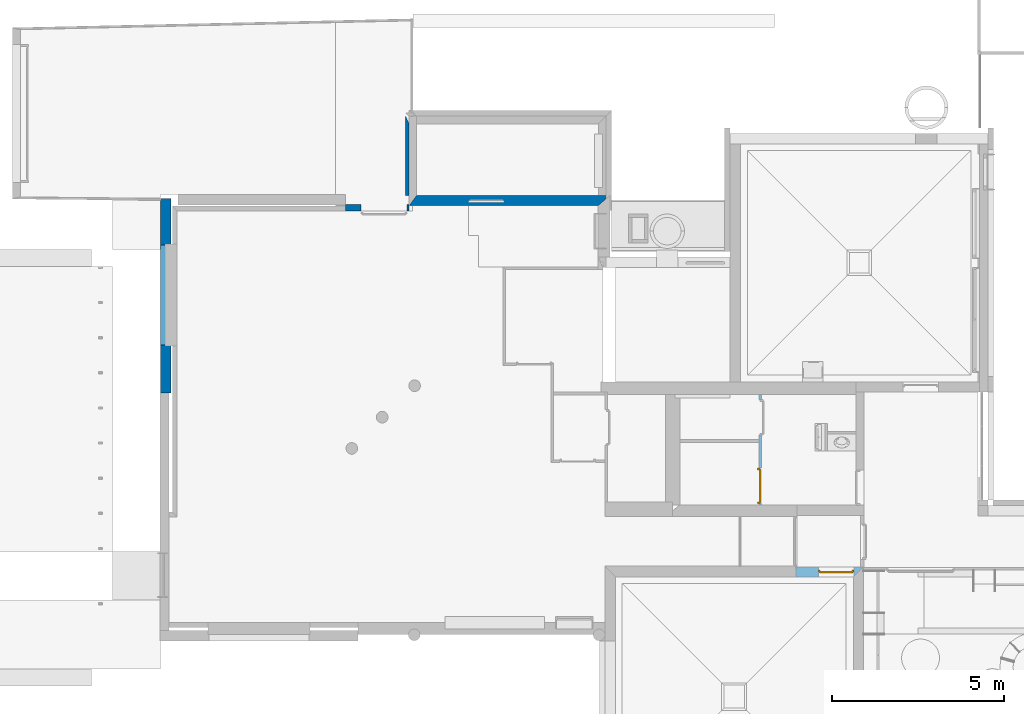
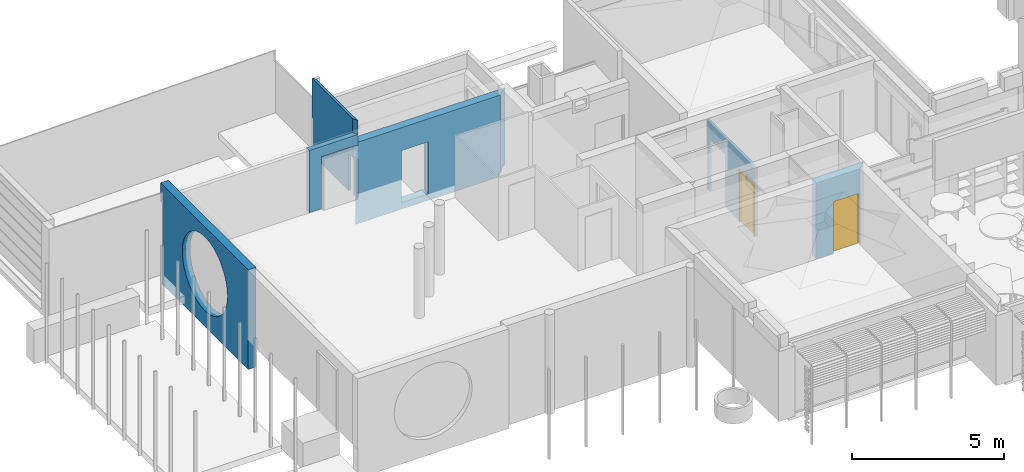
# One storey, part 38 of 64: 4 walls, 2 doors, 3 openings, plus 2 elements that do not belong to this part.
"""IFC2X3 building model written with IfcOpenShell, lengths in metres."""

import ifcopenshell
import ifcopenshell.guid

model = None  # the IFC model being written
_history = None  # IfcOwnerHistory: only IFC2X3 demands one
_inside = {}  # id of a spatial element -> (the spatial element, [elements in it])
_under = {}  # id of a project, library or spatial element -> (it, [spatial elements below it])
_declared = {}  # id of a project -> (the project, [libraries it declares])
_typed = {}  # id of a type object -> (the type object, [elements of that type])
_made_of = {}  # id of a material, layer set ... -> (it, [elements and type objects made of it])


def new_model(schema):
    """Start an empty IFC model of exactly this schema.

    Asked for "IFC4X3", IfcOpenShell would pick the latest addendum, in which some entities
    have other attributes; the version numbers below select the first issue.
    IFC2X3 requires an IfcOwnerHistory on every rooted entity: one is made here for all.
    """
    global model, _history
    if schema == "IFC4X3":
        model = ifcopenshell.file(schema_version=(4, 3, 0, 0))
    else:
        model = ifcopenshell.file(schema=schema)
    _inside.clear()
    _under.clear()
    _declared.clear()
    _typed.clear()
    _made_of.clear()
    _history = None
    if model.schema == "IFC2X3":
        org = make("IfcOrganization", Name="unknown")
        user = make(
            "IfcPersonAndOrganization",
            ThePerson=make("IfcPerson", FamilyName="unknown"),
            TheOrganization=org,
        )
        app = make(
            "IfcApplication",
            ApplicationDeveloper=org,
            Version="unknown",
            ApplicationFullName="unknown",
            ApplicationIdentifier="unknown",
        )
        _history = make(
            "IfcOwnerHistory",
            OwningUser=user,
            OwningApplication=app,
            ChangeAction="ADDED",
            CreationDate=0,
        )
    return model


def make(cls, **values):
    """One entity of the class cls with the attributes given. An attribute that is None is left unset."""
    return model.create_entity(
        cls, **{name: value for name, value in values.items() if value is not None}
    )


def entity(cls, *values):
    """Any entity or typed value of the class cls, its attributes in the order of the schema. None: left unset."""
    e = model.create_entity(cls)
    for i, value in enumerate(values):
        if value is not None:
            e[i] = value
    return e


def rooted(cls, **values):
    """An entity with a GlobalId (a new one), such as an element, a storey or a relation."""
    return make(cls, GlobalId=ifcopenshell.guid.new(), OwnerHistory=_history, **values)


def si_unit(unit_type, name, prefix=None):
    """IfcSIUnit, for example si_unit("LENGTHUNIT", "METRE", prefix="MILLI")."""
    return make("IfcSIUnit", UnitType=unit_type, Prefix=prefix, Name=name)


def converted_unit(unit_type, name, factor, base, dimensions=None, offset=None):
    """IfcConversionBasedUnit, such as the inch: factor (a typed value) times the base unit."""
    return make(
        "IfcConversionBasedUnit"
        if offset is None
        else "IfcConversionBasedUnitWithOffset",
        ConversionOffset=offset,
        Dimensions=None
        if dimensions is None
        else entity("IfcDimensionalExponents", *dimensions),
        UnitType=unit_type,
        Name=name,
        ConversionFactor=make(
            "IfcMeasureWithUnit", ValueComponent=factor, UnitComponent=base
        ),
    )


def derived_unit(unit_type, elements):
    """IfcDerivedUnit: a product of units, each with its exponent."""
    return make(
        "IfcDerivedUnit",
        Elements=[
            make("IfcDerivedUnitElement", Unit=unit, Exponent=power)
            for unit, power in elements
        ],
        UnitType=unit_type,
    )


def assignment(units):
    """IfcUnitAssignment: the units of a project."""
    return None if units is None else make("IfcUnitAssignment", Units=units)


def point(xyz):
    """IfcCartesianPoint."""
    return None if xyz is None else make("IfcCartesianPoint", Coordinates=xyz)


def direction(xyz):
    """IfcDirection."""
    return None if xyz is None else make("IfcDirection", DirectionRatios=xyz)


def frame(location, z_axis=None, x_axis=None):
    """IfcAxis2Placement3D, a coordinate frame: its origin and axes. An axis left out is left unset."""
    return make(
        "IfcAxis2Placement3D",
        Location=point(location),
        Axis=direction(z_axis),
        RefDirection=direction(x_axis),
    )


def frame_2d(location, x_axis=None):
    """IfcAxis2Placement2D, a coordinate frame in the plane: its origin and x axis."""
    return make(
        "IfcAxis2Placement2D", Location=point(location), RefDirection=direction(x_axis)
    )


def origin():
    """The frame at (0, 0, 0) with its axes left unset."""
    return frame((0.0, 0.0, 0.0))


def origin_2d_with_axis():
    """The frame at (0, 0) in the plane with the x axis (1, 0) written out."""
    return frame_2d((0.0, 0.0), x_axis=(1.0, 0.0))


def place(relative_to, where):
    """IfcLocalPlacement: puts the frame where relative to a parent placement (None: the world)."""
    return make(
        "IfcLocalPlacement", PlacementRelTo=relative_to, RelativePlacement=where
    )


def context(
    kind, dimensions, precision=None, world=None, true_north=None, identifier=None
):
    """IfcGeometricRepresentationContext, for example the 3D "Model" context."""
    return make(
        "IfcGeometricRepresentationContext",
        ContextIdentifier=identifier,
        ContextType=kind,
        CoordinateSpaceDimension=dimensions,
        Precision=precision,
        WorldCoordinateSystem=world,
        TrueNorth=true_north,
    )


def subcontext(parent, identifier, kind, view, scale=None):
    """IfcGeometricRepresentationSubContext, for example "Body" below "Model"."""
    return make(
        "IfcGeometricRepresentationSubContext",
        ContextIdentifier=identifier,
        ContextType=kind,
        ParentContext=parent,
        TargetScale=scale,
        TargetView=view,
    )


def project(units=None, contexts=None):
    """IfcProject with its units and contexts."""
    return rooted(
        "IfcProject",
        Name="project",
        RepresentationContexts=contexts,
        UnitsInContext=assignment(units),
    )


def spatial(cls, under=None, at=None, **own):
    """A site, building, storey or space (cls), placed at a placement, below another one or the project."""
    s = rooted(cls, ObjectPlacement=at, **own)
    if under is not None:
        _under.setdefault(under.id(), (under, []))[1].append(s)
    return s


def polyline(points):
    """IfcPolyline through the points."""
    return make("IfcPolyline", Points=[point(p) for p in points])


def profile(cls, at=None, kind="AREA", **sizes):
    """A parametric profile (cls). Its sizes go by their IFC names, for example OverallWidth=200.0."""
    return make(cls, ProfileType=kind, Position=at, **sizes)


def rectangle(**sizes):
    """IfcRectangleProfileDef."""
    return profile("IfcRectangleProfileDef", **sizes)


def outline(outer, holes=None, kind="AREA"):
    """IfcArbitraryClosedProfileDef: a profile drawn as a closed curve; with holes, ...WithVoids."""
    if holes is None:
        return make("IfcArbitraryClosedProfileDef", ProfileType=kind, OuterCurve=outer)
    return make(
        "IfcArbitraryProfileDefWithVoids",
        ProfileType=kind,
        OuterCurve=outer,
        InnerCurves=holes,
    )


def extrude(swept, where, along, depth):
    """IfcExtrudedAreaSolid: the profile swept, set in the frame where, extruded along a direction by depth."""
    return make(
        "IfcExtrudedAreaSolid",
        SweptArea=swept,
        Position=where,
        ExtrudedDirection=direction(along),
        Depth=depth,
    )


def faces_of(points, faces, orient=None, outer=None):
    """IfcFace entities. A face is a list of loops; a loop is a list of indices into points, from 0.

    orient and outer hold one flag for each loop. By default every Orientation is true, the
    first loop of a face is its IfcFaceOuterBound and the others are IfcFaceBound.
    """
    made = []
    for i, loops in enumerate(faces):
        bounds = []
        for j, loop in enumerate(loops):
            is_outer = j == 0 if outer is None else outer[i][j]
            bounds.append(
                make(
                    "IfcFaceOuterBound" if is_outer else "IfcFaceBound",
                    Bound=make("IfcPolyLoop", Polygon=[points[k] for k in loop]),
                    Orientation=True if orient is None else orient[i][j],
                )
            )
        made.append(make("IfcFace", Bounds=bounds))
    return made


def faceted_brep(points, faces, orient=None, outer=None, voids=None):
    """IfcFacetedBrep: a solid bounded by flat faces; with voids (closed shells), ...WithVoids."""
    shared = [point(p) for p in points]
    hull = make("IfcClosedShell", CfsFaces=faces_of(shared, faces, orient, outer))
    if voids is None:
        return make("IfcFacetedBrep", Outer=hull)
    return make(
        "IfcFacetedBrepWithVoids",
        Outer=hull,
        Voids=[
            make(cls, CfsFaces=faces_of(shared, fs, o, b)) for cls, fs, o, b in voids
        ],
    )


def shape(context_of_items, identifier, shape_type, items):
    """IfcShapeRepresentation: the items that make up one representation, for example the "Body"."""
    return make(
        "IfcShapeRepresentation",
        ContextOfItems=context_of_items,
        RepresentationIdentifier=identifier,
        RepresentationType=shape_type,
        Items=items,
    )


def source(mapping_origin, context_of_items, identifier, shape_type, items):
    """IfcRepresentationMap: a shape defined once, which mapped items show again and again."""
    return make(
        "IfcRepresentationMap",
        MappingOrigin=mapping_origin,
        MappedRepresentation=shape(context_of_items, identifier, shape_type, items),
    )


def transform(
    local_origin,
    x_axis=None,
    y_axis=None,
    z_axis=None,
    scale=None,
    scale2=None,
    scale3=None,
    uniform=True,
):
    """IfcCartesianTransformationOperator3D, or its non-uniform kind. x_axis, y_axis, z_axis: its Axis1, 2, 3."""
    if uniform:
        return make(
            "IfcCartesianTransformationOperator3D",
            Axis1=direction(x_axis),
            Axis2=direction(y_axis),
            LocalOrigin=point(local_origin),
            Scale=scale,
            Axis3=direction(z_axis),
        )
    return make(
        "IfcCartesianTransformationOperator3DnonUniform",
        Axis1=direction(x_axis),
        Axis2=direction(y_axis),
        LocalOrigin=point(local_origin),
        Scale=scale,
        Axis3=direction(z_axis),
        Scale2=scale2,
        Scale3=scale3,
    )


def mapped(mapping_source, mapping_target):
    """IfcMappedItem: shows the shape of a source again, moved by a transform."""
    return make(
        "IfcMappedItem", MappingSource=mapping_source, MappingTarget=mapping_target
    )


def material(Name=None, Category=None):
    """IfcMaterial."""
    return make("IfcMaterial", Name=Name, Category=Category)


def layer(
    of_material, thickness, ventilated=None, Name=None, Category=None, Priority=None
):
    """IfcMaterialLayer: one layer of a wall or slab, of a material (None: an air gap)."""
    return make(
        "IfcMaterialLayer",
        Material=of_material,
        LayerThickness=thickness,
        IsVentilated=ventilated,
        Name=Name,
        Category=Category,
        Priority=Priority,
    )


def layer_set(layers, Name=None):
    """IfcMaterialLayerSet."""
    return make("IfcMaterialLayerSet", MaterialLayers=layers, LayerSetName=Name)


def layer_usage(for_layer_set, set_direction, sense, offset, extent=None):
    """IfcMaterialLayerSetUsage: how a layer set lies in its element."""
    return make(
        "IfcMaterialLayerSetUsage",
        ForLayerSet=for_layer_set,
        LayerSetDirection=set_direction,
        DirectionSense=sense,
        OffsetFromReferenceLine=offset,
        ReferenceExtent=extent,
    )


def made_of(thing, what):
    """Note that an element or type object is made of a material, layer set ...; save() writes the relation."""
    if what is not None:
        _made_of.setdefault(what.id(), (what, []))[1].append(thing)
    return thing


def type_object(cls, material=None, **own):
    """A type object (cls), such as IfcWallType, which elements share."""
    return made_of(rooted(cls, **own), material)


def type_shapes(of_type, sources):
    """Give a type object the sources (RepresentationMaps) that its elements show as mapped items."""
    of_type.RepresentationMaps = sources


def element(
    cls,
    number,
    at=None,
    inside=None,
    cuts=None,
    type_object=None,
    material=None,
    context=None,
    identifier="Body",
    shape_type=None,
    held_by="IfcProductDefinitionShape",
    body=None,
    shapes=None,
    **own,
):
    """One element of the class cls, such as IfcWall. Its Tag is "e" and its number.

    at: its placement. inside: the storey or other place that contains it. cuts: it is an
    opening in that element (IfcRelVoidsElement). A single representation is given by context,
    identifier, shape_type and body (its items); several are given by shapes. held_by: the class
    of the entity that holds the representations. save() writes the other relations.
    """
    e = rooted(cls, Tag="e%d" % number, ObjectPlacement=at, **own)
    if body is not None:
        shapes = [shape(context, identifier, shape_type, body)]
    if shapes is not None:
        e.Representation = make(held_by, Representations=shapes)
    if inside is not None:
        _inside.setdefault(inside.id(), (inside, []))[1].append(e)
    if cuts is not None:
        rooted(
            "IfcRelVoidsElement", RelatingBuildingElement=cuts, RelatedOpeningElement=e
        )
    if type_object is not None:
        _typed.setdefault(type_object.id(), (type_object, []))[1].append(e)
    return made_of(e, material)


def fill(opening, filler):
    """IfcRelFillsElement: the door or window that sits in an opening."""
    return rooted(
        "IfcRelFillsElement",
        RelatingOpeningElement=opening,
        RelatedBuildingElement=filler,
    )


def aggregate(whole, parts):
    """IfcRelAggregates: a whole, such as a stair, and the parts it consists of."""
    return rooted("IfcRelAggregates", RelatingObject=whole, RelatedObjects=parts)


def save(model, path):
    """Write the relations noted so far, then the file.

    IfcRelAggregates (storeys below a building ...), IfcRelContainedInSpatialStructure (elements
    in a storey), IfcRelDefinesByType, IfcRelAssociatesMaterial and IfcRelDeclares: one each for
    every whole, place, type object, material and project.
    """
    for whole, parts in _under.values():
        aggregate(whole, parts)
    for where, things in _inside.values():
        rooted(
            "IfcRelContainedInSpatialStructure",
            RelatedElements=things,
            RelatingStructure=where,
        )
    for kind, things in _typed.values():
        rooted("IfcRelDefinesByType", RelatedObjects=things, RelatingType=kind)
    for what, things in _made_of.values():
        rooted("IfcRelAssociatesMaterial", RelatedObjects=things, RelatingMaterial=what)
    for by, libraries in _declared.values():
        rooted("IfcRelDeclares", RelatingContext=by, RelatedDefinitions=libraries)
    model.write(path)


model = new_model("IFC2X3")

# Units and contexts
model_context = context("Model", 3, precision=1e-05, world=origin(), true_north=direction((6.123031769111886e-17, 1.0)))
body_context = subcontext(model_context, "Body", "Model", "MODEL_VIEW")
ifc_project = project(units=[si_unit("LENGTHUNIT", "METRE"), si_unit("AREAUNIT", "SQUARE_METRE"), si_unit("VOLUMEUNIT", "CUBIC_METRE"), converted_unit("PLANEANGLEUNIT", "DEGREE", entity("IfcRatioMeasure", 0.017453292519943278), si_unit("PLANEANGLEUNIT", "RADIAN"), dimensions=[0, 0, 0, 0, 0, 0, 0]), si_unit("MASSUNIT", "GRAM", prefix="KILO"), derived_unit("MASSDENSITYUNIT", [(si_unit("MASSUNIT", "GRAM", prefix="KILO"), 1), (si_unit("LENGTHUNIT", "METRE"), -3)]), derived_unit("MOMENTOFINERTIAUNIT", [(si_unit("LENGTHUNIT", "METRE"), 4)]), si_unit("TIMEUNIT", "SECOND"), si_unit("FREQUENCYUNIT", "HERTZ"), si_unit("THERMODYNAMICTEMPERATUREUNIT", "DEGREE_CELSIUS"), derived_unit("THERMALTRANSMITTANCEUNIT", [(si_unit("MASSUNIT", "GRAM", prefix="KILO"), 1), (si_unit("THERMODYNAMICTEMPERATUREUNIT", "KELVIN"), -1), (si_unit("TIMEUNIT", "SECOND"), -3)]), derived_unit("THERMALCONDUCTANCEUNIT", [(si_unit("MASSUNIT", "GRAM", prefix="KILO"), 1), (si_unit("LENGTHUNIT", "METRE"), 1), (si_unit("THERMODYNAMICTEMPERATUREUNIT", "KELVIN"), -1), (si_unit("TIMEUNIT", "SECOND"), -3)]), derived_unit("VOLUMETRICFLOWRATEUNIT", [(si_unit("LENGTHUNIT", "METRE"), 3), (si_unit("TIMEUNIT", "SECOND"), -1)]), derived_unit("MASSFLOWRATEUNIT", [(si_unit("MASSUNIT", "GRAM", prefix="KILO"), 1), (si_unit("TIMEUNIT", "SECOND"), -1)]), derived_unit("ROTATIONALFREQUENCYUNIT", [(si_unit("TIMEUNIT", "SECOND"), -1)]), si_unit("ELECTRICCURRENTUNIT", "AMPERE"), si_unit("ELECTRICVOLTAGEUNIT", "VOLT"), si_unit("POWERUNIT", "WATT"), si_unit("FORCEUNIT", "NEWTON", prefix="KILO"), si_unit("ILLUMINANCEUNIT", "LUX"), si_unit("LUMINOUSFLUXUNIT", "LUMEN"), si_unit("LUMINOUSINTENSITYUNIT", "CANDELA"), derived_unit("USERDEFINED", [(si_unit("MASSUNIT", "GRAM", prefix="KILO"), -1), (si_unit("LENGTHUNIT", "METRE"), -2), (si_unit("TIMEUNIT", "SECOND"), 3), (si_unit("LUMINOUSFLUXUNIT", "LUMEN"), 1)]), derived_unit("USERDEFINED", [(si_unit("MASSUNIT", "GRAM", prefix="KILO"), 1), (si_unit("LENGTHUNIT", "METRE"), 3), (si_unit("TIMEUNIT", "SECOND"), -3), (si_unit("ELECTRICCURRENTUNIT", "AMPERE"), -2)]), derived_unit("USERDEFINED", [(si_unit("LENGTHUNIT", "METRE"), 2), (si_unit("TIMEUNIT", "SECOND"), -2)]), derived_unit("SOUNDPOWERUNIT", [(si_unit("MASSUNIT", "GRAM", prefix="KILO"), 1), (si_unit("LENGTHUNIT", "METRE"), 2), (si_unit("TIMEUNIT", "SECOND"), -3)]), derived_unit("SOUNDPRESSUREUNIT", [(si_unit("MASSUNIT", "GRAM", prefix="KILO"), 1), (si_unit("LENGTHUNIT", "METRE"), -1), (si_unit("TIMEUNIT", "SECOND"), -2)]), derived_unit("LINEARVELOCITYUNIT", [(si_unit("LENGTHUNIT", "METRE"), 1), (si_unit("TIMEUNIT", "SECOND"), -1)]), si_unit("PRESSUREUNIT", "PASCAL"), derived_unit("USERDEFINED", [(si_unit("LENGTHUNIT", "METRE"), -2), (si_unit("MASSUNIT", "GRAM", prefix="KILO"), 1), (si_unit("TIMEUNIT", "SECOND"), -2)]), derived_unit("LINEARFORCEUNIT", [(si_unit("MASSUNIT", "GRAM", prefix="KILO"), 1), (si_unit("LENGTHUNIT", "METRE"), 1), (si_unit("TIMEUNIT", "SECOND"), -2), (si_unit("LENGTHUNIT", "METRE"), -1)]), derived_unit("PLANARFORCEUNIT", [(si_unit("MASSUNIT", "GRAM", prefix="KILO"), 1), (si_unit("LENGTHUNIT", "METRE"), 1), (si_unit("TIMEUNIT", "SECOND"), -2), (si_unit("LENGTHUNIT", "METRE"), -2)]), derived_unit("SPECIFICHEATCAPACITYUNIT", [(si_unit("LENGTHUNIT", "METRE"), 2), (si_unit("TIMEUNIT", "SECOND"), -2), (si_unit("THERMODYNAMICTEMPERATUREUNIT", "KELVIN"), -1)]), derived_unit("VAPORPERMEABILITYUNIT", [(si_unit("TIMEUNIT", "SECOND"), 1), (si_unit("LENGTHUNIT", "METRE"), -1)]), derived_unit("DYNAMICVISCOSITYUNIT", [(si_unit("MASSUNIT", "GRAM", prefix="KILO"), 1), (si_unit("LENGTHUNIT", "METRE"), -1), (si_unit("TIMEUNIT", "SECOND"), -1)]), derived_unit("THERMALEXPANSIONCOEFFICIENTUNIT", [(si_unit("THERMODYNAMICTEMPERATUREUNIT", "KELVIN"), -1)])], contexts=[model_context])

# Site, building, storey
site_placement = place(None, origin())
site = spatial("IfcSite", under=ifc_project, at=site_placement, Name="Default", CompositionType="ELEMENT")
building_placement = place(site_placement, origin())
building = spatial("IfcBuilding", under=site, at=building_placement, CompositionType="ELEMENT")
storey_placement = place(building_placement, origin())
storey = spatial("IfcBuildingStorey", under=building, at=storey_placement, Name="REZ-DE-CHAUSSÉE", CompositionType="ELEMENT", Elevation=0.0)

# Walls
ifc_material_1 = material(Name="Appareillage - Pierre taillé")
ifc_layer_1 = layer(ifc_material_1, 0.29999999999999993)
ifc_layer_set_1 = layer_set([ifc_layer_1], Name="Mur de base:Struct. - Pierre 300")
wall_type_1 = type_object("IfcWallType", Name="Mur de base:Struct. - Pierre 300", PredefinedType="STANDARD", material=ifc_layer_set_1)
wall_1_placement = place(storey_placement, frame((89.90075227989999, 18.5772094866, -1.2000000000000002), z_axis=(0.0, 0.0, 1.0), x_axis=(0.0, 1.0, 0.0)))
element("IfcWallStandardCase", 1, at=wall_1_placement, inside=storey, type_object=wall_type_1, Name="MurExt-007", ObjectType="Mur de base:Struct. - Pierre 300", context=body_context, shape_type="Brep", body=[
    faceted_brep([(0.0, -0.15000000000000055, 0.0), (5.647054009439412, -0.15000000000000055, 0.0), (5.647054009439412, -0.15000000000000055, 3.2700000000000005), (5.759999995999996, -0.15000000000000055, 3.2700000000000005), (5.759999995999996, -0.15000000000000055, 4.0), (5.459999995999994, -0.15000000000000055, 4.0), (0.0, -0.15000000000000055, 4.0), (0.0, -0.15000000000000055, 1.2000000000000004), (4.301562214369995, -0.15000000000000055, 1.8312663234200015), (4.217341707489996, -0.15000000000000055, 1.5536285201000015), (4.08057502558, -0.15000000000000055, 1.2977560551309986), (3.8965180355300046, -0.15000000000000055, 1.0734819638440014), (3.6722439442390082, -0.15000000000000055, 0.8894249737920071), (3.4163714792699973, -0.15000000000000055, 0.752658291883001), (3.1387336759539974, -0.15000000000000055, 0.6684377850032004), (2.8499999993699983, -0.15000000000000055, 0.6399999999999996), (2.561266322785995, -0.15000000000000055, 0.6684377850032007), (2.283628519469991, -0.15000000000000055, 0.7526582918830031), (2.027756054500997, -0.15000000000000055, 0.8894249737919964), (1.8034819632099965, -0.15000000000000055, 1.073481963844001), (1.619424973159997, -0.15000000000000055, 1.2977560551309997), (1.4826582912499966, -0.15000000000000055, 1.5536285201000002), (1.398437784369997, -0.15000000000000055, 1.83126632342), (1.369999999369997, -0.15000000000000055, 2.1199999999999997), (1.398437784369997, -0.15000000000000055, 2.4087336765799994), (1.4826582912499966, -0.15000000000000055, 2.6863714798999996), (1.619424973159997, -0.15000000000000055, 2.9422439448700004), (1.803481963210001, -0.15000000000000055, 3.166518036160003), (2.0277560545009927, -0.15000000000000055, 3.350575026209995), (2.2836285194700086, -0.15000000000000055, 3.4873417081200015), (2.561266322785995, -0.15000000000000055, 3.571562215), (2.8499999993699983, -0.15000000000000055, 3.599999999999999), (3.1387336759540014, -0.15000000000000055, 3.571562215), (3.41637147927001, -0.15000000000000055, 3.487341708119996), (3.672243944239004, -0.15000000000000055, 3.3505750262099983), (3.89651803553, -0.15000000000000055, 3.1665180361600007), (4.0805750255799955, -0.15000000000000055, 2.9422439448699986), (4.21734170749, -0.15000000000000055, 2.6863714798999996), (4.30156221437, -0.15000000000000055, 2.40873367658), (4.329999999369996, -0.15000000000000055, 2.120000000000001), (4.217341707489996, 0.15000000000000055, 1.5536285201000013), (4.301562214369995, 0.15000000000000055, 1.8312663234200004), (4.32999999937, 0.15000000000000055, 2.1200000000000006), (4.30156221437, 0.15000000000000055, 2.4087336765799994), (4.21734170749, 0.15000000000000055, 2.6863714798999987), (4.08057502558, 0.15000000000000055, 2.9422439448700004), (3.8965180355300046, 0.15000000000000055, 3.1665180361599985), (3.672243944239, 0.15000000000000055, 3.3505750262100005), (3.41637147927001, 0.15000000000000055, 3.4873417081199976), (3.1387336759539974, 0.15000000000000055, 3.571562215), (2.8499999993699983, 0.15000000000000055, 3.599999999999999), (2.561266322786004, 0.15000000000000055, 3.571562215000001), (2.283628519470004, 0.15000000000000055, 3.4873417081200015), (2.0277560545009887, 0.15000000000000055, 3.350575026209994), (1.8034819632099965, 0.15000000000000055, 3.1665180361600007), (1.619424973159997, 0.15000000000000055, 2.9422439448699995), (1.4826582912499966, 0.15000000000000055, 2.6863714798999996), (1.398437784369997, 0.15000000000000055, 2.40873367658), (1.369999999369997, 0.15000000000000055, 2.1199999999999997), (1.398437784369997, 0.15000000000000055, 1.83126632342), (1.4826582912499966, 0.15000000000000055, 1.5536285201), (1.619424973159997, 0.15000000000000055, 1.297756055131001), (1.8034819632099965, 0.15000000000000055, 1.0734819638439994), (2.027756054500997, 0.15000000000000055, 0.8894249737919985), (2.283628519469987, 0.15000000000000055, 0.7526582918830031), (2.561266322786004, 0.15000000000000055, 0.6684377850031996), (2.8499999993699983, 0.15000000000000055, 0.6400000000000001), (3.1387336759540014, 0.15000000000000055, 0.6684377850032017), (3.4163714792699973, 0.15000000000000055, 0.7526582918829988), (3.6722439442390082, 0.15000000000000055, 0.8894249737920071), (3.89651803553, 0.15000000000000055, 1.073481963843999), (4.0805750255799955, 0.15000000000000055, 1.2977560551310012), (5.6500024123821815, 0.15000000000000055, 0.0), (5.599999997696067, 0.15000000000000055, 0.0), (0.0, 0.15000000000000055, 0.0), (0.0, 0.15000000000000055, 1.2000000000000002), (0.0, 0.15000000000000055, 4.0), (5.759999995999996, 0.15000000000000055, 4.0), (5.759999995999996, 0.15000000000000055, 3.2700000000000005), (5.6500024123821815, 0.15000000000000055, 3.2700000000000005), (0.0, -0.10000000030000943, 4.0)], [[[0, 1, 2, 3, 4, 5, 6, 7], [8, 9, 10, 11, 12, 13, 14, 15, 16, 17, 18, 19, 20, 21, 22, 23, 24, 25, 26, 27, 28, 29, 30, 31, 32, 33, 34, 35, 36, 37, 38, 39]], [[40, 41, 42, 43, 44, 45, 46, 47, 48, 49, 50, 51, 52, 53, 54, 55, 56, 57, 58, 59, 60, 61, 62, 63, 64, 65, 66, 67, 68, 69, 70, 71], [72, 73, 74, 75, 76, 77, 78, 79]], [[1, 0, 74, 73, 72]], [[6, 5, 4, 77, 76, 80]], [[8, 41, 40, 9]], [[9, 40, 71, 10]], [[10, 71, 70, 11]], [[11, 70, 69, 12]], [[12, 69, 68, 13]], [[13, 68, 67, 14]], [[14, 67, 66, 15]], [[15, 66, 65, 16]], [[16, 65, 64, 17]], [[17, 64, 63, 18]], [[18, 63, 62, 19]], [[19, 62, 61, 20]], [[20, 61, 60, 21]], [[21, 60, 59, 22]], [[22, 59, 58, 23]], [[23, 58, 57, 24]], [[24, 57, 56, 25]], [[25, 56, 55, 26]], [[26, 55, 54, 27]], [[27, 54, 53, 28]], [[28, 53, 52, 29]], [[29, 52, 51, 30]], [[30, 51, 50, 31]], [[31, 50, 49, 32]], [[32, 49, 48, 33]], [[33, 48, 47, 34]], [[34, 47, 46, 35]], [[35, 46, 45, 36]], [[36, 45, 44, 37]], [[37, 44, 43, 38]], [[38, 43, 42, 39]], [[41, 8, 39, 42]], [[3, 2, 79, 78]], [[2, 1, 72, 79]], [[3, 78, 77, 4]], [[6, 80, 76, 75, 74, 0, 7]]], outer=[[True, False], [False, True], [True], [True], [True], [True], [True], [True], [True], [True], [True], [True], [True], [True], [True], [True], [True], [True], [True], [True], [True], [True], [True], [True], [True], [True], [True], [True], [True], [True], [True], [True], [True], [True], [True], [True], [True], [True], [True], [True]]),
])
wall_2_placement = place(storey_placement, frame((102.81075227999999, 24.167209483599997, -1.1999999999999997), z_axis=(0.0, 0.0, 1.0), x_axis=(-1.0, 0.0, 0.0)))
element("IfcWallStandardCase", 2, at=wall_2_placement, inside=storey, type_object=wall_type_1, Name="MurExt-009", ObjectType="Mur de base:Struct. - Pierre 300", context=body_context, shape_type="Brep", body=[
    faceted_brep([(3.079999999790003, -0.15000000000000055, 2.3499999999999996), (4.109999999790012, -0.15000000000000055, 2.3499999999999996), (4.109999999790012, -0.15000000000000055, 0.2599999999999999), (3.079999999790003, -0.15000000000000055, 0.2599999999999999), (0.11999999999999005, -0.15000000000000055, 0.0), (0.33999999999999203, -0.15000000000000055, 0.0), (5.540000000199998, -0.15000000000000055, 0.0), (5.540000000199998, -0.15000000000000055, 1.1999999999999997), (5.620000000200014, -0.15000000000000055, 1.1999999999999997), (5.6200000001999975, -0.15000000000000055, 2.7), (5.84000004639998, -0.15000000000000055, 2.7), (5.84000004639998, -0.15000000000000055, 3.27), (0.31999999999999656, -0.15000000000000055, 3.27), (0.11999999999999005, -0.15000000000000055, 3.27), (0.0, -0.15000000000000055, 3.27), (0.0, -0.15000000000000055, 0.2), (0.11999999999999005, -0.15000000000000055, 0.2), (5.840000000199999, 0.15000000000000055, 0.0), (0.41999999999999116, 0.15000000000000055, 0.0), (0.41999999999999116, 0.15000000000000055, 0.2), (0.34999999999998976, 0.15000000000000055, 0.2), (0.34999999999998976, 0.15000000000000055, 3.27), (5.940000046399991, 0.15000000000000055, 3.27), (5.940000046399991, 0.15000000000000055, 2.7), (5.840000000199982, 0.15000000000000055, 2.7), (5.840000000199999, 0.15000000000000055, 1.1999999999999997), (4.109999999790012, 0.15000000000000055, 2.3499999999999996), (3.079999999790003, 0.15000000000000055, 2.3499999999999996), (3.079999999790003, 0.15000000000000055, 0.2599999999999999), (4.109999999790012, 0.15000000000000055, 0.2599999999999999)], [[[0, 1, 2, 3], [4, 5, 6, 7, 8, 9, 10, 11, 12, 13, 14, 15, 16]], [[17, 18, 19, 20, 21, 22, 23, 24, 25], [26, 27, 28, 29]], [[6, 5, 4, 18, 17]], [[14, 13, 12, 11, 22, 21]], [[26, 1, 0, 27]], [[27, 0, 3, 28]], [[28, 3, 2, 29]], [[1, 26, 29, 2]], [[8, 7, 25]], [[10, 9, 24, 23]], [[7, 6, 17, 25]], [[9, 8, 25, 24]], [[11, 10, 23, 22]], [[20, 19, 16, 15]], [[4, 16, 19, 18]], [[20, 15, 14, 21]]], outer=[[False, True], [True, False], [True], [True], [True], [True], [True], [True], [True], [True], [True], [True], [True], [True], [True], [True]]),
])

# Wall, opening, door
ifc_layer_2 = layer(ifc_material_1, 0.28)
ifc_layer_set_2 = layer_set([ifc_layer_2], Name="Mur de base:Struct. - Pierre 280")
ifc_layer_usage_1 = layer_usage(ifc_layer_set_2, "AXIS2", "NEGATIVE", 0.14)
wall_type_2 = type_object("IfcWallType", Name="Mur de base:Struct. - Pierre 280", PredefinedType="STANDARD", material=ifc_layer_set_2)
wall_3_placement = place(storey_placement, frame((108.21575227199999, 13.377209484, 0.0)))
wall_3 = element("IfcWallStandardCase", 3, at=wall_3_placement, inside=storey, type_object=wall_type_2, material=ifc_layer_usage_1, Name="MurExt-006", ObjectType="Mur de base:Struct. - Pierre 280", context=body_context, shape_type="SweptSolid", body=[
    extrude(outline(polyline([(0.0, -0.1399999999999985), (1.6650000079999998, -0.1399999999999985), (1.9550000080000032, 0.14000000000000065), (1.875000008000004, 0.14000000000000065), (0.02499999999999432, 0.14000000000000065), (0.0, 0.14000000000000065), (0.0, -0.1399999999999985)])), origin(), (0.0, 0.0, 1.0), 3.0600000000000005),
])
opening_1_placement = place(wall_3_placement, frame((-108.21575227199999, -13.377209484, 0.0)))
opening_1 = element("IfcOpeningElement", 4, at=opening_1_placement, cuts=wall_3, Name="MurExt-006", ObjectType="Opening", context=body_context, shape_type="SweptSolid", body=[
    extrude(rectangle(XDim=2.09, YDim=1.0300000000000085, at=origin_2d_with_axis()), frame((109.38075228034, 13.081409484, 1.045), z_axis=(0.0, 1.0, 0.0), x_axis=(0.0, 0.0, -1.0)), (0.0, 0.0, 1.0), 0.5915999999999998),
])
ifc_material_2 = material(Name="Peinture - Gris clair")
door_style_1 = type_object("IfcDoorStyle", Name="Por-003", ConstructionType="NOTDEFINED", OperationType="SINGLE_SWING_LEFT", ParameterTakesPrecedence=False, Sizeable=False, material=ifc_material_2)
shared_shape_1 = source(origin(), body_context, "Body", "Brep", [
    faceted_brep([(0.0, 0.29579999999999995, 0.0), (0.0, 0.29579999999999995, 2.09), (1.03, 0.29579999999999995, 2.09), (1.03, 0.29579999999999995, 0.0), (0.995, 0.29579999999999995, 0.0), (0.995, 0.29579999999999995, 2.055), (0.03500000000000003, 0.29579999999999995, 2.055), (0.03500000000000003, 0.29579999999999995, 0.0), (0.0, 0.24579999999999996, 0.0), (0.0, 0.24579999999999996, 2.09), (1.03, 0.24579999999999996, 2.09), (1.03, 0.24579999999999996, 0.0), (0.98, 0.24579999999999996, 0.0), (0.98, 0.28079999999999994, 0.0), (0.995, 0.28079999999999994, 0.0), (0.995, 0.28079999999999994, 2.055), (0.03500000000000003, 0.28079999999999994, 2.055), (0.03500000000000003, 0.28079999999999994, 0.0), (0.05, 0.28079999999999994, 0.0), (0.05, 0.24579999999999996, 0.0), (0.98, 0.24579999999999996, 2.04), (0.05, 0.24579999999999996, 2.04), (0.98, 0.28079999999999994, 2.04), (0.05, 0.28079999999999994, 2.04), (0.03500000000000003, 0.3208, 0.0), (0.995, 0.3208, 0.0), (0.03500000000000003, 0.3208, 2.055), (0.995, 0.3208, 2.055)], [[[0, 1, 2, 3, 4, 5, 6, 7]], [[8, 9, 1, 0]], [[9, 10, 2, 1]], [[10, 11, 3, 2]], [[3, 11, 12, 13, 14, 4]], [[5, 4, 14, 15]], [[6, 5, 15, 16]], [[7, 6, 16, 17]], [[0, 7, 17, 18, 19, 8]], [[19, 8, 9, 10, 11, 12, 20, 21]], [[22, 13, 12, 20]], [[17, 16, 15, 14, 13, 22, 23, 18]], [[18, 23, 21, 19]], [[23, 22, 20, 21]], [[24, 25, 14, 17]], [[24, 26, 27, 25]], [[25, 27, 15, 14]], [[17, 14, 15, 16]], [[26, 24, 17, 16]], [[27, 26, 16, 15]]]),
])
type_shapes(door_style_1, [shared_shape_1])
door_1_placement = place(opening_1_placement, frame((109.89575228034, 13.673009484, 0.0), z_axis=(0.0, 0.0, 1.0), x_axis=(-1.0, 0.0, 0.0)))
door_1 = element("IfcDoor", 5, at=door_1_placement, inside=storey, type_object=door_style_1, material=ifc_material_2, Name="Por-003 9927:Por-003 9927", ObjectType="Por-003 9927:Por-003 9927", OverallHeight=2.09, OverallWidth=1.0300000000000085, context=body_context, shape_type="MappedRepresentation", body=[
    mapped(shared_shape_1, transform((0.0, 0.0, 0.0), scale=1.0)),
])
fill(opening_1, door_1)

# Wall
ifc_material_3 = material(Name="Métal - Zinc")
ifc_layer_3 = layer(ifc_material_3, 0.02)
ifc_material_4 = material(Name="Bois - Panneaux de particules")
ifc_layer_4 = layer(ifc_material_4, 0.012)
ifc_material_5 = material(Name="Isolation - Fibre de verre")
ifc_layer_5 = layer(ifc_material_5, 0.146)
ifc_layer_6 = layer(ifc_material_4, 0.012)
ifc_layer_set_3 = layer_set([ifc_layer_3, ifc_layer_4, ifc_layer_5, ifc_layer_6], Name="Mur de base:ABA MOB costières 190")
wall_type_3 = type_object("IfcWallType", Name="Mur de base:ABA MOB costières 190", PredefinedType="STANDARD", material=ifc_layer_set_3)
wall_4_placement = place(storey_placement, frame((95.1207522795, 23.962209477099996, 0.0)))
element("IfcWallStandardCase", 6, at=wall_4_placement, inside=storey, type_object=wall_type_3, Name="MurExt-005", ObjectType="Mur de base:ABA MOB costières 190", context=body_context, shape_type="Brep", body=[
    faceted_brep([(1.8499999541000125, -0.09500000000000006, 2.4999999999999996), (0.0, -0.09500000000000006, 2.4999999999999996), (0.0, -0.09500000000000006, 0.0), (0.45500000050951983, -0.09500000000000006, 0.0), (0.45500000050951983, -0.09500000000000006, 2.09), (1.7850000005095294, -0.09500000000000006, 2.09), (1.7850000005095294, -0.09500000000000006, 2.0700000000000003), (1.8499999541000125, -0.09500000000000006, 2.0700000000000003), (0.0, 0.04499993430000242, 0.0), (0.0, 0.09500000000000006, 0.0), (0.45500000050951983, 0.09500000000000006, 0.0), (1.7499999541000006, 0.09500000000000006, 2.4999999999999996), (0.0, 0.09500000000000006, 2.4999999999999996), (0.0, 0.04499993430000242, 2.4999999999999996), (1.7850000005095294, 0.028499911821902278, 2.09), (0.45500000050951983, 0.09500000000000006, 2.09), (1.7499999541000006, 0.09500000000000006, 2.09), (1.7850000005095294, 0.028499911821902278, 2.0700000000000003)], [[[0, 1, 2, 3, 4, 5, 6, 7]], [[2, 8, 9, 10, 3]], [[1, 0, 11, 12, 13]], [[14, 5, 4, 15, 16]], [[15, 4, 3, 10]], [[17, 7, 6]], [[0, 7, 17, 14, 16, 11]], [[1, 13, 12, 9, 8, 2]], [[5, 14, 17, 6]], [[12, 11, 16, 15, 10, 9]]]),
    faceted_brep([(1.8500000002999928, 0.09500000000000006, 1.5000000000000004), (1.8500000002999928, 0.09500000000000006, 0.0), (1.7850000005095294, 0.09500000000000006, 0.0), (1.7850000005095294, 0.09500000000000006, 1.5000000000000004), (1.7850000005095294, -0.09500000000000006, 0.0), (1.7850000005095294, -0.09500000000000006, 1.5000000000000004), (1.8500000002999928, -0.09500000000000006, 1.5000000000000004), (1.8500000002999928, 0.0550000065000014, 1.5000000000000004), (1.8500000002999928, -0.09500000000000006, 0.0), (1.8500000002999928, 0.0550000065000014, 0.0)], [[[0, 1, 2, 3]], [[4, 5, 3, 2]], [[6, 7, 0, 3, 5]], [[6, 8, 9, 1, 0, 7]], [[1, 9, 8, 4, 2]], [[8, 6, 5, 4]]]),
])

# Wall, openings, door
ifc_layer_7 = layer(ifc_material_1, 0.08)
ifc_layer_set_4 = layer_set([ifc_layer_7], Name="Mur de base:Struct. - Pierre 80")
ifc_layer_usage_2 = layer_usage(ifc_layer_set_4, "AXIS2", "NEGATIVE", 0.04)
wall_type_4 = type_object("IfcWallType", Name="Mur de base:Struct. - Pierre 80", PredefinedType="STANDARD", material=ifc_layer_set_4)
wall_5_placement = place(storey_placement, frame((107.17075227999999, 18.5372094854, 0.0), z_axis=(0.0, 0.0, 1.0), x_axis=(0.0, -1.0, 0.0)))
wall_5 = element("IfcWallStandardCase", 7, at=wall_5_placement, inside=storey, type_object=wall_type_4, material=ifc_layer_usage_2, Name="MurExt-018", ObjectType="Mur de base:Struct. - Pierre 80", context=body_context, shape_type="SweptSolid", body=[
    extrude(rectangle(XDim=3.2100000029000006, YDim=0.08000000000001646, at=frame_2d((1.6050000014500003, 0.0), x_axis=(-1.0, 0.0))), origin(), (0.0, 0.0, 1.0), 2.78),
])
opening_2_placement = place(wall_5_placement, frame((18.5372094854, -107.17075227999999, 0.0), z_axis=(0.0, 0.0, 1.0), x_axis=(0.0, 1.0, 0.0)))
element("IfcOpeningElement", 8, at=opening_2_placement, cuts=wall_5, Name="MurExt-018", ObjectType="Opening", context=body_context, shape_type="SweptSolid", body=[
    extrude(rectangle(XDim=2.09, YDim=1.0299999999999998, at=frame_2d((0.0, 0.0), x_axis=(0.0, 1.0))), frame((107.08915228, 17.86720948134, 1.045), z_axis=(1.0, 0.0, 0.0), x_axis=(0.0, -1.0, 0.0)), (0.0, 0.0, 1.0), 0.16319999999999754),
])
opening_3_placement = place(wall_5_placement, frame((18.5372094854, -107.17075227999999, 0.0), z_axis=(0.0, 0.0, 1.0), x_axis=(0.0, 1.0, 0.0)))
opening_3 = element("IfcOpeningElement", 9, at=opening_3_placement, cuts=wall_5, Name="MurExt-018", ObjectType="Opening", context=body_context, shape_type="SweptSolid", body=[
    extrude(rectangle(XDim=2.09, YDim=1.0299999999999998, at=origin_2d_with_axis()), frame((107.08915228, 15.877209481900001, 1.045), z_axis=(1.0, 0.0, 0.0), x_axis=(0.0, 0.0, 1.0)), (0.0, 0.0, 1.0), 0.16319999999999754),
])
door_style_2 = type_object("IfcDoorStyle", Name="Por-004", ConstructionType="NOTDEFINED", OperationType="SINGLE_SWING_RIGHT", ParameterTakesPrecedence=False, Sizeable=False, material=ifc_material_2)
shared_shape_2 = source(origin(), body_context, "Body", "Brep", [
    faceted_brep([(1.0299999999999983, -0.08159999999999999, 0.0), (0.9949999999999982, -0.08159999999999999, 0.0), (0.9949999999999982, -0.08159999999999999, 2.055), (0.03499999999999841, -0.08159999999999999, 2.055), (0.03499999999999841, -0.08159999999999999, 0.0), (0.0, -0.08159999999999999, 0.0), (0.0, -0.08159999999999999, 2.09), (1.0299999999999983, -0.08159999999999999, 2.09), (1.0299999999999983, -0.16160000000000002, 0.0), (0.9799999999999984, -0.16160000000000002, 0.0), (0.9799999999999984, -0.0966, 0.0), (0.9949999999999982, -0.0966, 0.0), (0.9949999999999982, -0.0966, 2.055), (0.03499999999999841, -0.0966, 2.055), (0.03499999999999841, -0.0966, 0.0), (0.04999999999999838, -0.0966, 0.0), (0.04999999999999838, -0.16160000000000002, 0.0), (0.0, -0.16160000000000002, 0.0), (0.0, -0.16160000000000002, 2.09), (1.0299999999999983, -0.16160000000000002, 2.09), (0.04999999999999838, -0.16160000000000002, 2.04), (0.9799999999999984, -0.16160000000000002, 2.04), (0.9799999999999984, -0.0966, 2.04), (0.04999999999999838, -0.0966, 2.04), (0.9949999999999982, -0.05659999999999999, 0.0), (0.03499999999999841, -0.05659999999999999, 0.0), (0.9949999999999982, -0.05659999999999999, 2.055), (0.03499999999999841, -0.05659999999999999, 2.055)], [[[0, 1, 2, 3, 4, 5, 6, 7]], [[0, 8, 9, 10, 11, 1]], [[1, 11, 12, 2]], [[2, 12, 13, 3]], [[3, 13, 14, 4]], [[5, 4, 14, 15, 16, 17]], [[18, 6, 5, 17]], [[19, 7, 6, 18]], [[8, 0, 7, 19]], [[9, 8, 19, 18, 17, 16, 20, 21]], [[10, 9, 21, 22]], [[11, 10, 22, 23, 15, 14, 13, 12]], [[23, 20, 16, 15]], [[22, 21, 20, 23]], [[24, 11, 14, 25]], [[26, 12, 11, 24]], [[11, 12, 13, 14]], [[25, 14, 13, 27]], [[24, 25, 27, 26]], [[27, 13, 12, 26]]]),
])
type_shapes(door_style_2, [shared_shape_2])
door_2_placement = place(opening_3_placement, frame((107.25235227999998, 16.3922094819, 0.0), z_axis=(0.0, 0.0, 1.0), x_axis=(0.0, -1.0, 0.0)))
door_2 = element("IfcDoor", 10, at=door_2_placement, inside=storey, type_object=door_style_2, material=ifc_material_2, Name="Por-004 20814:Por-004 20814", ObjectType="Por-004 20814:Por-004 20814", OverallHeight=2.09, OverallWidth=1.0299999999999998, context=body_context, shape_type="MappedRepresentation", body=[
    mapped(shared_shape_2, transform((0.0, 0.0, 0.0), scale=1.0)),
])
fill(opening_3, door_2)

# Wall
ifc_material_6 = material(Name="Plâtre - Plaques de plâtre")
ifc_layer_8 = layer(ifc_material_6, 0.013)
ifc_layer_9 = layer(ifc_material_5, 0.08699999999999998)
ifc_layer_set_5 = layer_set([ifc_layer_8, ifc_layer_9], Name="Mur de base:ABA doublage 10cm 100")
wall_type_5 = type_object("IfcWallType", Name="Mur de base:ABA doublage 10cm 100", PredefinedType="STANDARD", material=ifc_layer_set_5)
wall_6_placement = place(storey_placement, frame((96.9207522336, 23.86720947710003, 0.0), z_axis=(0.0, 0.0, 1.0), x_axis=(0.0, 1.0, 0.0)))
element("IfcWallStandardCase", 11, at=wall_6_placement, inside=storey, type_object=wall_type_5, Name="MurExt-003", ObjectType="Mur de base:ABA doublage 10cm 100", context=body_context, shape_type="Brep", body=[
    faceted_brep([(0.4500000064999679, -0.04999999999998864, 0.0), (2.5300000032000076, -0.04999999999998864, 0.0), (2.5300000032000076, -0.04999999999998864, 1.5000000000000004), (2.7500000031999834, -0.04999999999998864, 1.5000000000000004), (2.7500000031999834, -0.04999999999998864, 3.06), (0.0, -0.04999999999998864, 3.06), (0.0, -0.04999999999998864, 2.0700000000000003), (0.45000000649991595, -0.04999999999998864, 2.0700000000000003), (0.4500000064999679, -0.04999999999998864, 1.5000000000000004), (0.4500000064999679, 0.050000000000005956, 0.0), (0.4500000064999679, 0.050000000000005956, 1.5000000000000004), (0.18999999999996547, 0.050000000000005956, 1.5000000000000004), (0.1500000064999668, 0.050000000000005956, 1.5000000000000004), (0.1500000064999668, 0.050000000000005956, 2.0700000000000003), (0.18999999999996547, 0.050000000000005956, 2.0700000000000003), (0.18999999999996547, 0.050000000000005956, 3.06), (2.8500000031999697, 0.050000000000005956, 3.06), (2.8500000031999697, 0.050000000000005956, 1.5000000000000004), (2.7500000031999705, 0.050000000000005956, 1.5000000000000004), (2.7500000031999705, 0.050000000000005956, 0.0), (0.1744897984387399, 0.04183673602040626, 2.0700000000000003)], [[[0, 1, 2, 3, 4, 5, 6, 7, 8]], [[9, 10, 11, 12, 13, 14, 15, 16, 17, 18, 19]], [[1, 0, 9, 19]], [[5, 4, 16, 15]], [[8, 12, 11, 10]], [[6, 20, 7]], [[0, 8, 10, 9]], [[8, 7, 20, 13, 12]], [[6, 5, 15, 14, 20]], [[17, 3, 2, 18]], [[2, 1, 19, 18]], [[4, 3, 17, 16]], [[20, 14, 13]]]),
])

save(model, "model.ifc")
